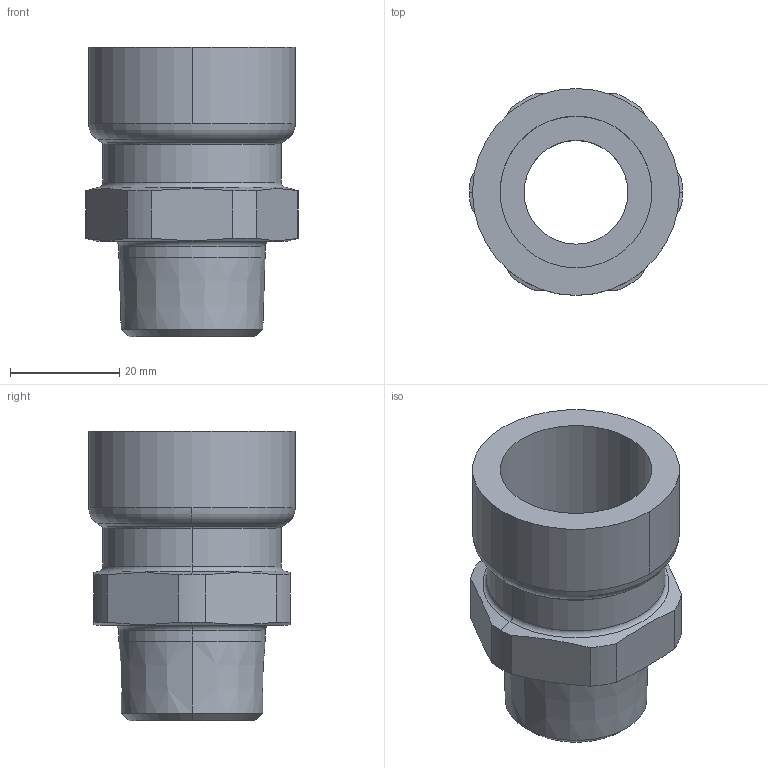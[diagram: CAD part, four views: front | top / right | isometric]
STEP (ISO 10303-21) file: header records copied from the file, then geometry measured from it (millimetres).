
FILE_DESCRIPTION(('Creo Elements/Direct Modeling STEP Export'),'2;1');
FILE_NAME('C9405_3-4.stp','2020-06-18T14:13:54',(''),(''),'PTC Creo Elements/Direct Modeling STEP processor for AP214 (Solid Model)','PTC Creo Elements/Direct Modeling 19.0C 15-Aug-2015 (C) Parametric Technology GmbH','');
FILE_SCHEMA(('AUTOMOTIVE_DESIGN { 1 0 10303 214 1 1 1 1 }'));
Length unit declared in the file: millimetre
Products named in the file (2): 9405_3-4
Assembly tree (1 placements, depth 2):
  9405_3-4
    9405_3-4
Bounding box: 39 x 37.9 x 53 mm (x, y, z)
Volume: 21235.4 mm3; surface area: 11369.2 mm2
Topology: 1 solids, 1 shells, 44 faces, 104 edges, 64 vertices
Faces by surface type: cylinder 16, plane 10, cone 10, torus 8
Entity records: 1804 total; most frequent: CARTESIAN_POINT 769, ORIENTED_EDGE 208, DIRECTION 202, EDGE_CURVE 104, AXIS2_PLACEMENT_3D 85, VERTEX_POINT 64, EDGE_LOOP 48, FACE_OUTER_BOUND 44
